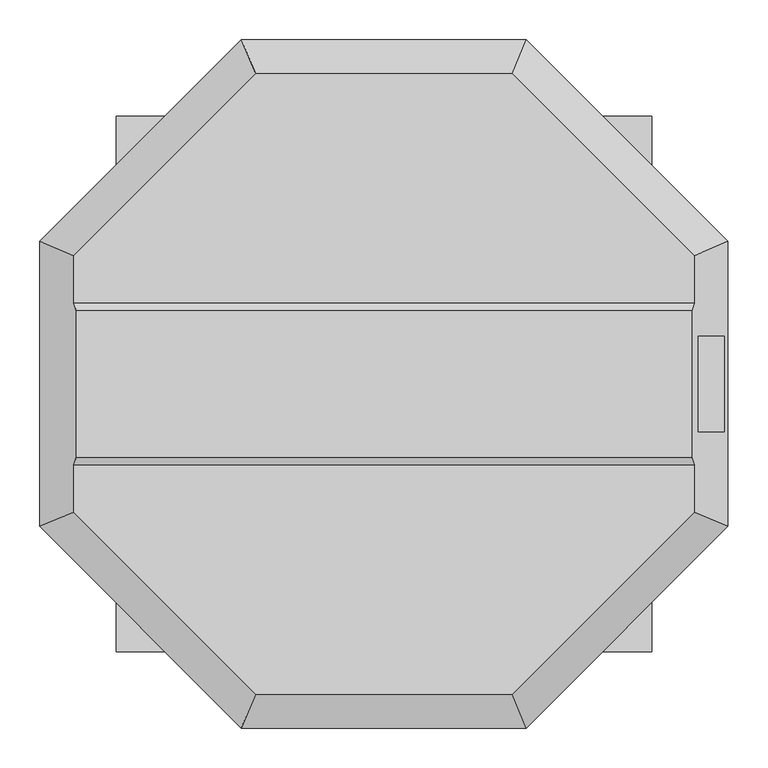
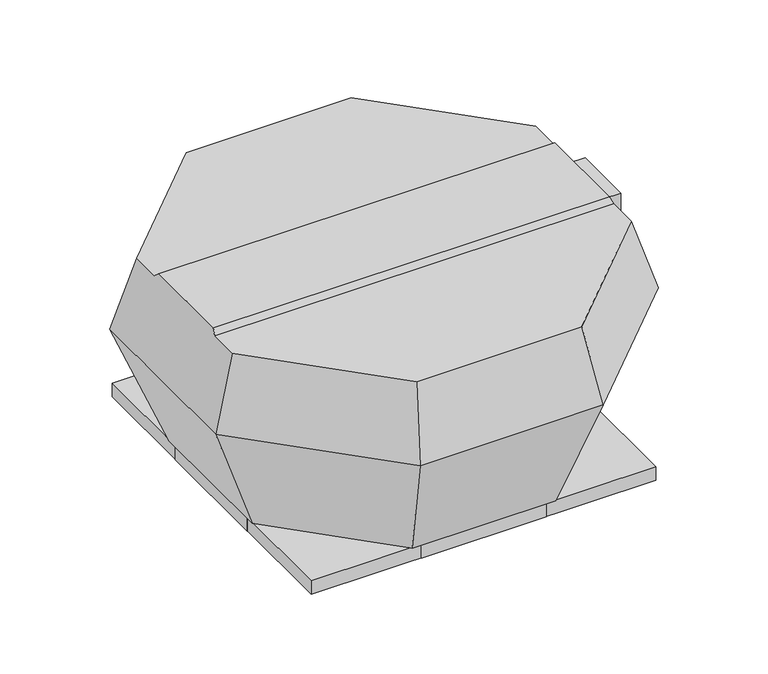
"""IFC4 building model written with IfcOpenShell, lengths in millimetres: unitary equipment geometry, VE-Wentylator-ParaForma-Harmann-VIVER_PS-Wywiewny : 4-450/5000T."""

from ifc_helpers import new_model, si_unit, point, frame, frame_2d, origin, place, context, project, spatial, polyline, circle_curve, ellipse_curve, trimmed, segment, composite_curve, outline, extrude, faceted_brep, source, transform, mapped, element, save
from ifc_brep_helpers import plane_surface, revolved_surface, advanced_brep


def unitary_equipment_7d859a49(model_context):
    return source(origin(), model_context, "Body", "SolidModel", [
        advanced_brep(
        [(385.1033363, -91.75, 391.6), (385.1033363, 91.75, 391.6), (-385.1033363, 91.75, 391.6), (-385.1033363, -91.75, 391.6), (387.9641195, 101.2, 382.1), (-387.9641195, 101.2, 382.1), (387.9641195, -101.2, 382.1), (-387.9641195, -101.2, 382.1), (160.7, -387.9641195, 382.1), (387.9641195, -160.7, 382.1), (-387.9641195, -160.7, 382.1), (-160.7, -387.9641195, 382.1), (387.9641195, 160.7, 382.1), (160.7, 387.9641195, 382.1), (-160.7, 387.9641195, 382.1), (-387.9641195, 160.7, 382.1), (178.3, -430.4542782, 241.0), (430.4542782, -178.3, 241.0), (430.4542782, 178.3, 241.0), (425.8, -60.0, 256.4557825), (392.9629617, -60.0, 365.5), (392.9629617, 60.0, 365.5), (425.8, 60.0, 256.4557825), (418.4691023, 0.0, 280.8), (399.7987278, 0.0, 342.8), (178.3, 430.4542782, 241.0), (-178.3, 430.4542782, 241.0), (-430.4542782, 178.3, 241.0), (-430.4542782, -178.3, 241.0), (-178.3, -430.4542782, 241.0), (425.8, -60.0, 365.5), (425.8, 60.0, 365.5), (425.8, 0.0, 342.8), (425.8, 0.0, 280.8), (139.7, -337.2656347, 1.5), (-139.7, -337.2656347, 1.5), (-337.2656347, -139.7, 1.5), (-337.2656347, 139.7, 1.5), (-139.7, 337.2656347, 1.5), (139.7, 337.2656347, 1.5), (337.2656347, 139.7, 1.5), (337.2656347, -139.7, 1.5)],
        [
            (0, 1),
            (1, 2),
            (2, 3),
            (3, 0),
            (1, 4),
            (4, 5),
            (5, 2),
            (6, 0),
            (3, 7),
            (7, 6),
            (8, 9),
            (9, 6),
            (7, 10),
            (10, 11),
            (11, 8),
            (12, 13),
            (13, 14),
            (14, 15),
            (15, 5),
            (4, 12),
            (8, 16),
            (16, 17),
            (17, 9),
            (17, 18),
            (18, 12),
            (19, 20),
            (20, 21),
            (21, 22),
            (22, 19),
            (23, 24, ellipse_curve(frame((409.1339151, 0.0, 311.8), z_axis=(0.9575266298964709, 0.0, 0.28834485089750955), x_axis=(-0.2883448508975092, 0.0, 0.9575266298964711)), 32.3750787, 31.0)),
            (24, 23, ellipse_curve(frame((409.1339151, 0.0, 311.8), z_axis=(0.9575266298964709, 0.0, 0.28834485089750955), x_axis=(-0.2883448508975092, 0.0, 0.9575266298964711)), 32.3750787, 31.0)),
            (18, 25),
            (25, 13),
            (25, 26),
            (26, 14),
            (26, 27),
            (27, 15),
            (27, 28),
            (28, 10),
            (28, 29),
            (29, 11),
            (29, 16),
            (19, 30),
            (30, 20),
            (31, 22),
            (21, 31),
            (31, 30),
            (32, 33, circle_curve(frame((425.8, 0.0, 311.8), z_axis=(-1.0, 0.0, 0.0), x_axis=(0.0, 0.0, -1.0)), 31.0)),
            (33, 32, circle_curve(frame((425.8, 0.0, 311.8), z_axis=(-1.0, 0.0, 0.0), x_axis=(0.0, 0.0, -1.0)), 31.0)),
            (34, 35),
            (35, 36),
            (36, 37),
            (37, 38),
            (38, 39),
            (39, 40),
            (40, 41),
            (41, 34),
            (41, 17),
            (16, 34),
            (40, 18),
            (39, 25),
            (38, 26),
            (37, 27),
            (36, 28),
            (35, 29),
            (32, 24),
            (23, 33),
        ],
        [
            plane_surface(frame((0.0, 0.0, 391.6), z_axis=(0.0, 0.0, 1.0), x_axis=(0.0, 1.0, 0.0))),
            plane_surface(frame((0.0, 101.2, 382.1), z_axis=(0.0, 0.7089700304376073, 0.7052386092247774), x_axis=(-1.0, 0.0, 0.0))),
            plane_surface(frame((0.0, -101.2, 382.1), z_axis=(0.0, -0.7089700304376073, 0.7052386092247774), x_axis=(1.0, 0.0, 0.0))),
            plane_surface(frame((0.0, 0.0, 382.1), z_axis=(0.0, 0.0, 1.0000000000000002), x_axis=(0.7071067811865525, 0.7071067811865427, 0.0))),
            plane_surface(frame((304.3771391, -304.3771391, 241.0), z_axis=(0.6770735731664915, -0.6770735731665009, 0.2883448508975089), x_axis=(0.7071067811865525, 0.7071067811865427, 0.0))),
            plane_surface(frame((430.4542782, 0.0, 241.0), z_axis=(0.9575266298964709, 0.0, 0.28834485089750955), x_axis=(0.0, 1.0, 0.0))),
            plane_surface(frame((304.3771391, 304.3771391, 241.0), z_axis=(0.6770735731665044, 0.6770735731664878, 0.28834485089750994), x_axis=(-0.7071067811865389, 0.7071067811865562, 0.0))),
            plane_surface(frame((0.0, 430.4542782, 241.0), z_axis=(0.0, 0.9575266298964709, 0.28834485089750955), x_axis=(-1.0, 0.0, 0.0))),
            plane_surface(frame((-304.3771391, 304.3771391, 241.0), z_axis=(-0.6770735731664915, 0.6770735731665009, 0.28834485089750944), x_axis=(-0.7071067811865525, -0.7071067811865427, 0.0))),
            plane_surface(frame((-430.4542782, 0.0, 241.0), z_axis=(-0.9575266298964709, 0.0, 0.28834485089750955), x_axis=(0.0, -1.0, 0.0))),
            plane_surface(frame((-304.3771391, -304.3771391, 241.0), z_axis=(-0.6770735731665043, -0.6770735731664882, 0.2883448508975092), x_axis=(0.7071067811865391, -0.707106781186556, 0.0))),
            plane_surface(frame((0.0, -430.4542782, 241.0), z_axis=(0.0, -0.9575266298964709, 0.28834485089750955), x_axis=(1.0, 0.0, 0.0))),
            plane_surface(frame((0.0, -60.0, 0.0), z_axis=(0.0, -1.0, 0.0), x_axis=(0.0, 0.0, 1.0))),
            plane_surface(frame((0.0, 60.0, 0.0), z_axis=(0.0, 1.0, 0.0), x_axis=(0.0, 0.0, 1.0))),
            plane_surface(frame((425.8, -60.0, 278.1), z_axis=(1.0, 0.0, 0.0), x_axis=(0.0, 1.0, 0.0))),
            plane_surface(frame((425.8, -60.0, 365.5), z_axis=(0.0, 0.0, 1.0), x_axis=(0.0, 1.0, 0.0))),
            plane_surface(frame((0.0, 0.0, 1.5), z_axis=(0.0, 0.0, -1.0), x_axis=(0.7071067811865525, 0.7071067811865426, 0.0))),
            plane_surface(frame((238.4828173, -238.4828173, 1.5), z_axis=(0.6589805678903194, -0.6589805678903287, -0.3626144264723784), x_axis=(0.7071067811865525, 0.7071067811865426, 0.0))),
            plane_surface(frame((337.2656347, 0.0, 1.5), z_axis=(0.9319392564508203, 0.0, -0.36261442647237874), x_axis=(0.0, 1.0, 0.0))),
            plane_surface(frame((238.4828173, 238.4828173, 1.5), z_axis=(0.6589805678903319, 0.6589805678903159, -0.3626144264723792), x_axis=(-0.7071067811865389, 0.7071067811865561, 0.0))),
            plane_surface(frame((0.0, 337.2656347, 1.5), z_axis=(0.0, 0.9319392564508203, -0.36261442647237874), x_axis=(-1.0, 0.0, 0.0))),
            plane_surface(frame((-238.4828173, 238.4828173, 1.5), z_axis=(-0.6589805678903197, 0.6589805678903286, -0.3626144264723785), x_axis=(-0.7071067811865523, -0.7071067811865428, 0.0))),
            plane_surface(frame((-337.2656347, 0.0, 1.5), z_axis=(-0.9319392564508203, 0.0, -0.36261442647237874), x_axis=(0.0, -1.0, 0.0))),
            plane_surface(frame((-238.4828173, -238.4828173, 1.5), z_axis=(-0.6589805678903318, -0.6589805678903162, -0.3626144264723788), x_axis=(0.7071067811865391, -0.7071067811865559, 0.0))),
            plane_surface(frame((0.0, -337.2656347, 1.5), z_axis=(0.0, -0.9319392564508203, -0.36261442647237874), x_axis=(1.0, 0.0, 0.0))),
            revolved_surface(polyline([(399.7987278, 0.0, 280.8), (425.8, 0.0, 280.8)]), (0.0, 0.0, 311.8), (-1.0, 0.0, 0.0)),
        ],
        [
            (0, [[1, 2, 3, 4]]),
            (1, [[5, 6, 7, -2]]),
            (2, [[8, -4, 9, 10]]),
            (3, [[11, 12, -10, 13, 14, 15]]),
            (3, [[16, 17, 18, 19, -6, 20]]),
            (4, [[-11, 21, 22, 23]]),
            (5, [[-23, 24, 25, -20, -5, -1, -8, -12], [26, 27, 28, 29]]),
            (5, [[30, 31]]),
            (6, [[-16, -25, 32, 33]]),
            (7, [[-17, -33, 34, 35]]),
            (8, [[-18, -35, 36, 37]]),
            (9, [[-37, 38, 39, -13, -9, -3, -7, -19]]),
            (10, [[-14, -39, 40, 41]]),
            (11, [[-15, -41, 42, -21]]),
            (12, [[43, 44, -26]]),
            (13, [[45, -28, 46]]),
            (14, [[47, -43, -29, -45], [48, 49]]),
            (15, [[-47, -46, -27, -44]]),
            (16, [[50, 51, 52, 53, 54, 55, 56, 57]]),
            (17, [[-57, 58, -22, 59]]),
            (18, [[-56, 60, -24, -58]]),
            (19, [[-55, 61, -32, -60]]),
            (20, [[-54, 62, -34, -61]]),
            (21, [[-53, 63, -36, -62]]),
            (22, [[-52, 64, -38, -63]]),
            (23, [[-51, 65, -40, -64]]),
            (24, [[-50, -59, -42, -65]]),
            (25, [[-48, 66, -30, 67]]),
            (25, [[-49, -67, -31, -66]]),
        ],
    ),
        faceted_brep([(333.4, 333.4, -26.5), (333.4, 333.4, 0.0), (-333.4, 333.4, 0.0), (-333.4, 333.4, -26.5), (334.9, 334.9, 1.5), (334.9, 334.9, -26.5), (-334.9, 334.9, -26.5), (-334.9, 334.9, 1.5), (-333.4, -333.4, 0.0), (-333.4, -333.4, -26.5), (-334.9, -334.9, -26.5), (-334.9, -334.9, 1.5), (333.4, -333.4, 0.0), (333.4, -333.4, -26.5), (334.9, -334.9, -26.5), (334.9, -334.9, 1.5)], [[[0, 1, 2, 3]], [[4, 5, 6, 7]], [[3, 2, 8, 9]], [[7, 6, 10, 11]], [[9, 8, 12, 13]], [[11, 10, 14, 15]], [[13, 12, 1, 0]], [[5, 14, 10, 6], [3, 9, 13, 0]], [[15, 14, 5, 4]], [[7, 11, 15, 4]], [[1, 12, 8, 2]]]),
        extrude(outline(composite_curve([segment(trimmed(circle_curve(frame_2d((0.0, 311.8)), 31.0), [point((0.0, 342.8))], [point((0.0, 280.8))], False, "CARTESIAN"), True, "CONTINUOUS"), segment(trimmed(circle_curve(frame_2d((0.0, 311.8)), 31.0), [point((0.0, 280.8))], [point((0.0, 342.8))], False, "CARTESIAN"), True, "CONTINUOUS")], self_intersect=False)), frame((415.8, 0.0, 0.0), z_axis=(1.0, 0.0, 0.0), x_axis=(0.0, 1.0, 0.0)), (0.0, 0.0, 1.0), 10.0),
        faceted_brep([(-334.9, -121.3, -26.6), (-335.9, -121.3, -26.6), (-335.9, 121.3, -26.6), (-334.9, 121.3, -26.6), (-334.9, -121.3, 1.5), (-334.9, 121.3, 1.5), (-335.9, 121.3, 1.5), (-335.9, -121.3, 1.5)], [[[0, 1, 2, 3]], [[4, 5, 6, 7]], [[1, 0, 4, 7]], [[2, 1, 7, 6]], [[3, 2, 6, 5]], [[0, 3, 5, 4]]]),
        faceted_brep([(335.9, -121.3, -26.6), (334.9, -121.3, -26.6), (334.9, 121.3, -26.6), (335.9, 121.3, -26.6), (335.9, 121.3, 1.5), (334.9, 121.3, 1.5), (334.9, -121.3, 1.5), (335.9, -121.3, 1.5), (335.9, -94.8, 1.5), (360.1, -78.2, 1.5), (360.1, 78.2, 1.5), (335.9, 94.8, 1.5), (335.9, 94.8, 0.0), (335.9, -94.8, 0.0), (360.1, 78.2, 0.0), (357.0, 78.2, 0.0), (357.0, -78.2, 0.0), (360.1, -78.2, 0.0), (360.1, -78.2, -21.0), (360.1, 78.2, -21.0), (357.0, -78.2, -21.0), (357.0, 78.2, -21.0)], [[[0, 1, 2, 3]], [[4, 5, 6, 7, 8, 9, 10, 11]], [[1, 0, 7, 6]], [[2, 1, 6, 5]], [[3, 2, 5, 4]], [[0, 3, 4, 11, 12, 13, 8, 7]], [[12, 14, 15, 16, 17, 13]], [[14, 12, 11, 10]], [[10, 9, 17, 18, 19, 14]], [[13, 17, 9, 8]], [[20, 16, 15, 21]], [[16, 20, 18, 17]], [[21, 15, 14, 19]], [[20, 21, 19, 18]]]),
        faceted_brep([(121.3, 334.9, -26.6), (-121.3, 334.9, -26.6), (-121.3, 335.9, -26.6), (121.3, 335.9, -26.6), (121.3, 334.9, 1.5), (121.3, 335.9, 1.5), (-121.3, 335.9, 1.5), (-121.3, 334.9, 1.5)], [[[0, 1, 2, 3]], [[4, 5, 6, 7]], [[1, 0, 4, 7]], [[2, 1, 7, 6]], [[3, 2, 6, 5]], [[0, 3, 5, 4]]]),
        faceted_brep([(121.3, -335.9, -26.6), (-121.3, -335.9, -26.6), (-121.3, -334.9, -26.6), (121.3, -334.9, -26.6), (121.3, -335.9, 1.5), (121.3, -334.9, 1.5), (-121.3, -334.9, 1.5), (-121.3, -335.9, 1.5)], [[[0, 1, 2, 3]], [[4, 5, 6, 7]], [[1, 0, 4, 7]], [[2, 1, 7, 6]], [[3, 2, 6, 5]], [[0, 3, 5, 4]]]),
    ])


if __name__ == "__main__":
    model = new_model("IFC4")
    model_context = context("Model", 3, world=origin())
    ifc_project = project(units=[si_unit("LENGTHUNIT", "METRE", prefix="MILLI")], contexts=[model_context])
    site = spatial("IfcSite", under=ifc_project)
    building = spatial("IfcBuilding", under=site)
    placement = place(None, origin())
    unitary_equipment_shape = unitary_equipment_7d859a49(model_context)
    element("IfcUnitaryEquipment", 1, ObjectType="VE-Wentylator-ParaForma-Harmann-VIVER_PS-Wywiewny : 4-450/5000T", at=placement, inside=building, context=model_context, shape_type="MappedRepresentation", body=[
        mapped(unitary_equipment_shape, transform((0.0, 0.0, 0.0), x_axis=(1.0, 0.0, 0.0), y_axis=(0.0, 1.0, 0.0), z_axis=(0.0, 0.0, 1.0))),
    ])
    save(model, "model.ifc")
